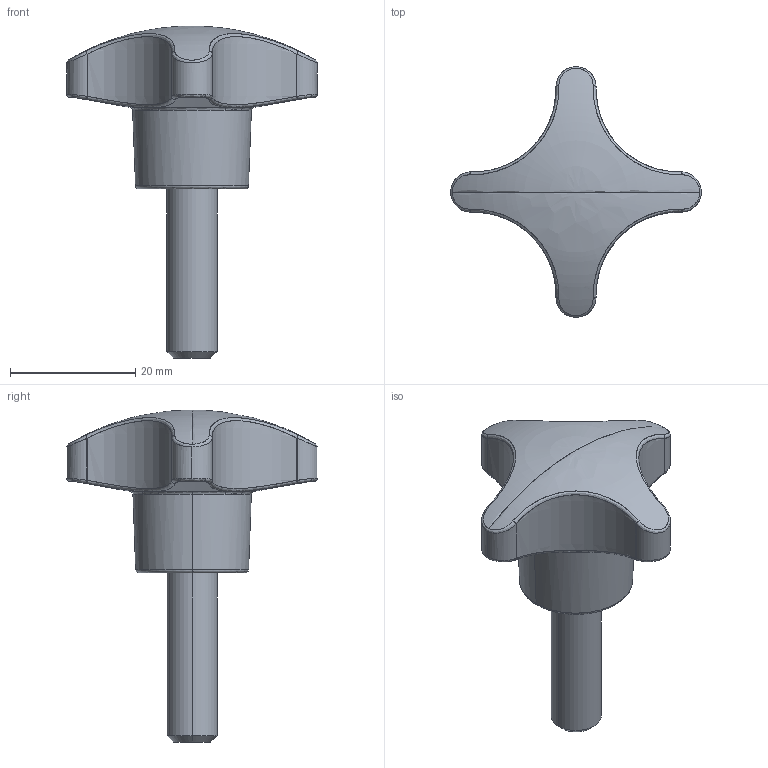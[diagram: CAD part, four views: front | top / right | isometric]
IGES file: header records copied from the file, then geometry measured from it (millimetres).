
Start section: SolidWorks IGES file using analytic representation for surfaces
Global section: file name: C:\Users\Marc\Documents\2 ENGINYERIA\Catalogo 3D\IGS STEP DXF\1121 40 501.IGS; native system: SolidWorks 2010; preprocessor: SolidWorks 2010; author: Marc; date: 101126.164643; units: millimetre
Bounding box: 40 x 40 x 53 mm (x, y, z)
Surface area: 4274.5 mm2 (no closed solid volume)
Topology: 0 solids, 0 shells, 81 faces, 1021 edges, 1020 vertices
Faces by surface type: bspline 49, revolution 32
